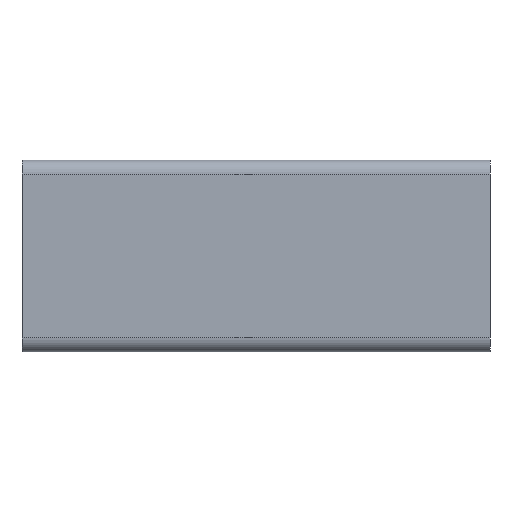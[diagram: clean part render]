
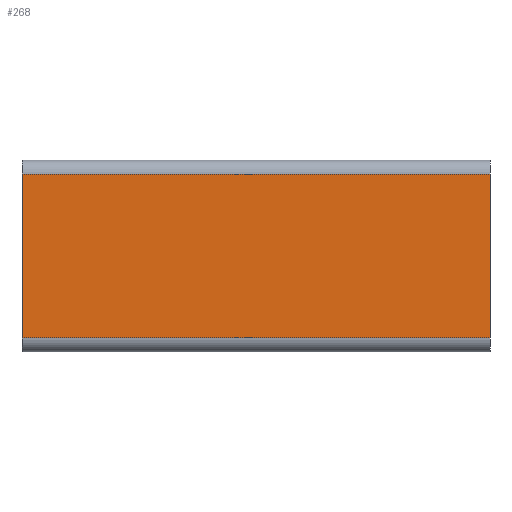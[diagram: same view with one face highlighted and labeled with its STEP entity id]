
A CAD part, front view. The second image highlights one B-rep face of the part: STEP entity #268.
In plain terms, the highlighted planar face has unit normal (0, -1, 0).
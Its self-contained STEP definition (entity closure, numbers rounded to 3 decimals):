
#210=CARTESIAN_POINT('',(100.0,-60.65,3.0));
#211=VERTEX_POINT('',#210);
#219=CARTESIAN_POINT('',(0.0,-60.65,3.0));
#220=VERTEX_POINT('',#219);
#221=CARTESIAN_POINT('',(0.0,-60.65,3.0));
#222=DIRECTION('',(1.0,0.0,0.0));
#223=VECTOR('',#222,100.0);
#224=LINE('',#221,#223);
#225=EDGE_CURVE('',#220,#211,#224,.T.);
#238=CARTESIAN_POINT('',(0.0,-60.65,3.0));
#239=DIRECTION('',(0.0,-1.0,0.0));
#240=DIRECTION('',(0.0,0.0,-1.0));
#241=AXIS2_PLACEMENT_3D('',#238,#239,#240);
#242=PLANE('',#241);
#243=CARTESIAN_POINT('',(100.0,-60.65,38.0));
#244=VERTEX_POINT('',#243);
#245=CARTESIAN_POINT('',(100.0,-60.65,3.0));
#246=DIRECTION('',(0.0,0.0,1.0));
#247=VECTOR('',#246,35.0);
#248=LINE('',#245,#247);
#249=EDGE_CURVE('',#211,#244,#248,.T.);
#250=ORIENTED_EDGE('',*,*,#249,.T.);
#251=CARTESIAN_POINT('',(0.0,-60.65,38.0));
#252=VERTEX_POINT('',#251);
#253=CARTESIAN_POINT('',(0.0,-60.65,38.0));
#254=DIRECTION('',(1.0,0.0,0.0));
#255=VECTOR('',#254,100.0);
#256=LINE('',#253,#255);
#257=EDGE_CURVE('',#252,#244,#256,.T.);
#258=ORIENTED_EDGE('',*,*,#257,.F.);
#259=CARTESIAN_POINT('',(0.0,-60.65,38.0));
#260=DIRECTION('',(0.0,0.0,-1.0));
#261=VECTOR('',#260,35.0);
#262=LINE('',#259,#261);
#263=EDGE_CURVE('',#252,#220,#262,.T.);
#264=ORIENTED_EDGE('',*,*,#263,.T.);
#265=ORIENTED_EDGE('',*,*,#225,.T.);
#266=EDGE_LOOP('',(#250,#258,#264,#265));
#267=FACE_OUTER_BOUND('',#266,.T.);
#268=ADVANCED_FACE('',(#267),#242,.T.);
